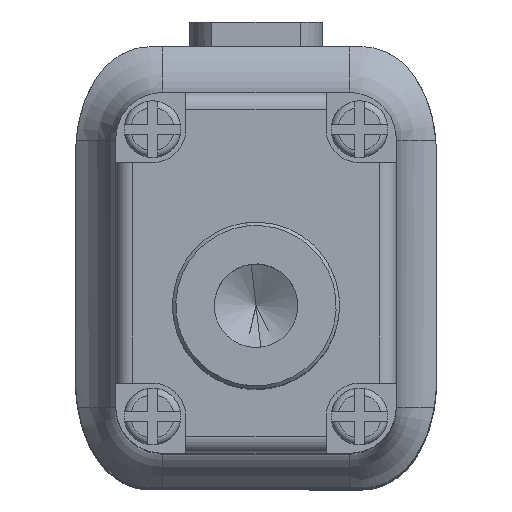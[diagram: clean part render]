
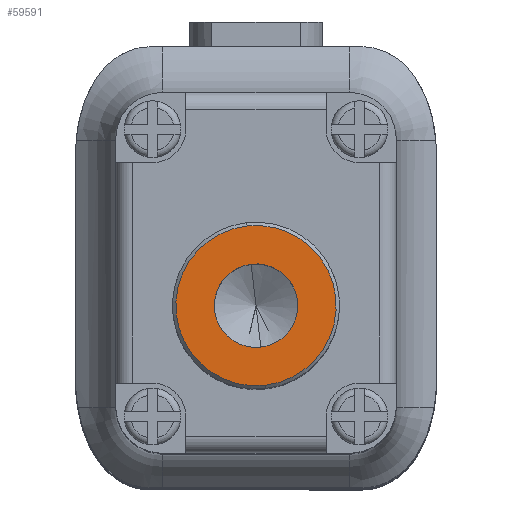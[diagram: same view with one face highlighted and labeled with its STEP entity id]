
A CAD part, top view. The second image highlights one B-rep face of the part: STEP entity #59591.
In plain terms, the highlighted planar face has unit normal (0, 0, 1) as drawn and (0, 0, -1) by its records, which use the part's own axes.
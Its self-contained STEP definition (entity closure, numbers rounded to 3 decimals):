
#1469 = CARTESIAN_POINT ( 'NONE',  ( -1.25, 0., 0. ) ) ;
#1842 = DIRECTION ( 'NONE',  ( 0., 0., -1. ) ) ;
#2557 = PLANE ( 'NONE',  #61454 ) ;
#2858 = FACE_BOUND ( 'NONE', #35492, .T. ) ;
#3447 = CIRCLE ( 'NONE', #6388, 2.4 ) ;
#3478 = DIRECTION ( 'NONE',  ( 1., 0., 0. ) ) ;
#6388 = AXIS2_PLACEMENT_3D ( 'NONE', #44592, #58897, #20046 ) ;
#6989 = VERTEX_POINT ( 'NONE', #58053 ) ;
#7344 = ORIENTED_EDGE ( 'NONE', *, *, #20144, .F. ) ;
#9468 = CARTESIAN_POINT ( 'NONE',  ( 2.4, 0., 0. ) ) ;
#12109 = CIRCLE ( 'NONE', #51865, 1.25 ) ;
#12525 = CARTESIAN_POINT ( 'NONE',  ( 0., 0., 0. ) ) ;
#13138 = AXIS2_PLACEMENT_3D ( 'NONE', #48875, #15885, #54133 ) ;
#14101 = EDGE_CURVE ( 'NONE', #54861, #14950, #39963, .T. ) ;
#14622 = DIRECTION ( 'NONE',  ( 0., 0., -1. ) ) ;
#14950 = VERTEX_POINT ( 'NONE', #9468 ) ;
#15885 = DIRECTION ( 'NONE',  ( 0., 0., -1. ) ) ;
#18390 = ORIENTED_EDGE ( 'NONE', *, *, #25551, .F. ) ;
#20046 = DIRECTION ( 'NONE',  ( 1., 0., 0. ) ) ;
#20144 = EDGE_CURVE ( 'NONE', #6989, #40146, #24016, .T. ) ;
#20862 = DIRECTION ( 'NONE',  ( -1., 0., 0. ) ) ;
#22502 = DIRECTION ( 'NONE',  ( 0., 0., 1. ) ) ;
#24016 = CIRCLE ( 'NONE', #39898, 1.25 ) ;
#25551 = EDGE_CURVE ( 'NONE', #40146, #6989, #12109, .T. ) ;
#26401 = EDGE_LOOP ( 'NONE', ( #47975, #53532 ) ) ;
#28970 = DIRECTION ( 'NONE',  ( -1., 0., 0. ) ) ;
#32443 = CARTESIAN_POINT ( 'NONE',  ( 0., 0., 0. ) ) ;
#35492 = EDGE_LOOP ( 'NONE', ( #18390, #7344 ) ) ;
#36219 = FACE_OUTER_BOUND ( 'NONE', #26401, .T. ) ;
#39898 = AXIS2_PLACEMENT_3D ( 'NONE', #32443, #14622, #28970 ) ;
#39963 = CIRCLE ( 'NONE', #13138, 2.4 ) ;
#40146 = VERTEX_POINT ( 'NONE', #1469 ) ;
#43074 = EDGE_CURVE ( 'NONE', #14950, #54861, #3447, .T. ) ;
#44489 = CARTESIAN_POINT ( 'NONE',  ( 0., 0., 0. ) ) ;
#44592 = CARTESIAN_POINT ( 'NONE',  ( 0., 0., 0. ) ) ;
#47975 = ORIENTED_EDGE ( 'NONE', *, *, #43074, .T. ) ;
#48875 = CARTESIAN_POINT ( 'NONE',  ( 0., 0., 0. ) ) ;
#51865 = AXIS2_PLACEMENT_3D ( 'NONE', #44489, #1842, #20862 ) ;
#53532 = ORIENTED_EDGE ( 'NONE', *, *, #14101, .T. ) ;
#54133 = DIRECTION ( 'NONE',  ( 1., 0., 0. ) ) ;
#54861 = VERTEX_POINT ( 'NONE', #59374 ) ;
#58053 = CARTESIAN_POINT ( 'NONE',  ( 1.25, 0., 0. ) ) ;
#58897 = DIRECTION ( 'NONE',  ( 0., 0., -1. ) ) ;
#59374 = CARTESIAN_POINT ( 'NONE',  ( -2.4, 0., 0. ) ) ;
#59591 = ADVANCED_FACE ( 'NONE', ( #36219, #2858 ), #2557, .F. ) ;
#61454 = AXIS2_PLACEMENT_3D ( 'NONE', #12525, #22502, #3478 ) ;
